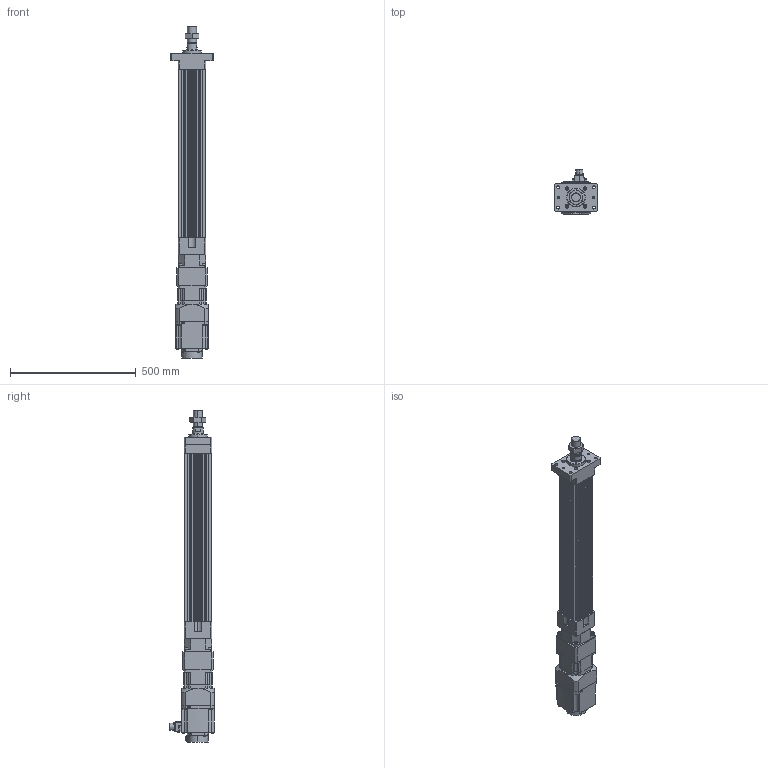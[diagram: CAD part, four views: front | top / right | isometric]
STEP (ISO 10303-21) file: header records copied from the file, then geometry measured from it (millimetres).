
FILE_DESCRIPTION (( 'STEP AP203' ), '1' );
FILE_NAME ('HES110NS(HS)-S500-W015G00-M-FM.STEP', '2023-01-28T06:36:40', ( 'tms' ), ( '' ), 'SwSTEP 2.0', 'SolidWorks 2013', '' );
FILE_SCHEMA (( 'CONFIG_CONTROL_DESIGN' ));
Length unit declared in the file: millimetre
Products named in the file (8): HES110-S500-G120-FM; HG-SR152; P0401400706; AB1151; M36X1.5P; AB115-003[HG-SR152]; HES110NS(HS)-S500-W015G00-M-FM; HES110 ROD M ST500
Assembly tree (7 placements, depth 3):
  HES110NS(HS)-S500-W015G00-M-FM
    HES110-S500-G120-FM
    HES110 ROD M ST500
    M36X1.5P
    AB115-003[HG-SR152]
      AB1151
      P0401400706
    HG-SR152
Bounding box: 170 x 177.49 x 1321.5 mm (x, y, z)
Volume: 8580093.5 mm3; surface area: 1198643.6 mm2
Topology: 4 solids, 15 shells, 1170 faces, 2958 edges, 1925 vertices
Faces by surface type: plane 559, cylinder 525, cone 74, bspline 8, torus 4
Entity records: 36974 total; most frequent: CARTESIAN_POINT 7028, DIRECTION 6389, ORIENTED_EDGE 5864, EDGE_CURVE 2942, AXIS2_PLACEMENT_3D 2346, VERTEX_POINT 1925, VECTOR 1697, LINE 1697
